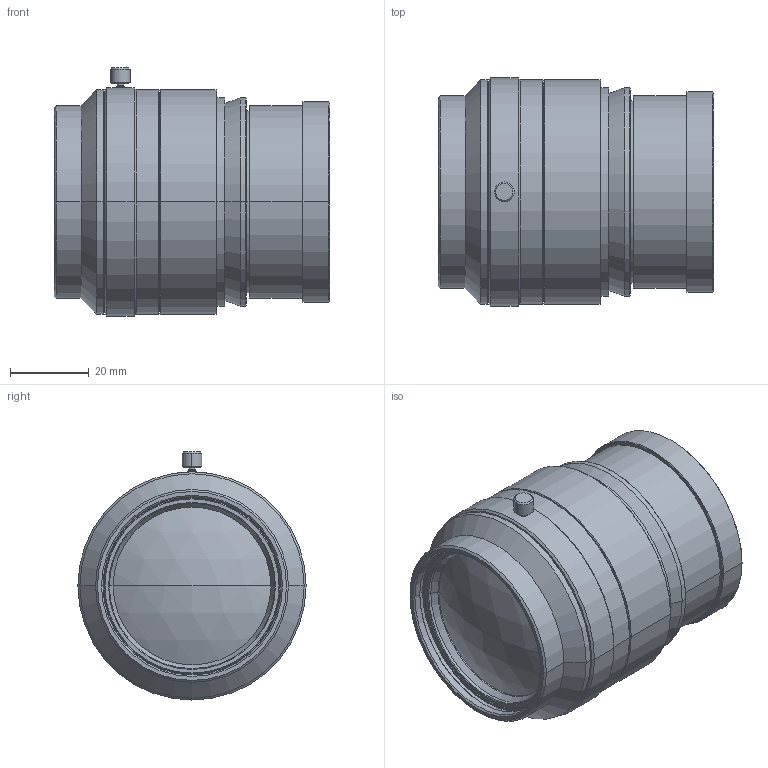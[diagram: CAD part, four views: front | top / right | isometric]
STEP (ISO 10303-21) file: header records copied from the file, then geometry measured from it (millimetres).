
FILE_DESCRIPTION (( 'STEP AP203' ), '1' );
FILE_NAME ('VS-L12035-075_V.STEP', '2015-11-10T00:17:05', ( '' ), ( '' ), 'SwSTEP 2.0', 'SolidWorks 2015', '' );
FILE_SCHEMA (( 'CONFIG_CONTROL_DESIGN' ));
Length unit declared in the file: millimetre
Products named in the file (1): VS-L12035-075_V
Bounding box: 70 x 58 x 63.05 mm (x, y, z)
Volume: 145304.1 mm3; surface area: 19670.9 mm2
Topology: 1 solids, 1 shells, 119 faces, 236 edges, 136 vertices
Faces by surface type: cone 58, cylinder 40, plane 17, sphere 4
Entity records: 3159 total; most frequent: DIRECTION 610, CARTESIAN_POINT 524, ORIENTED_EDGE 472, AXIS2_PLACEMENT_3D 256, EDGE_CURVE 236, CIRCLE 136, EDGE_LOOP 136, VERTEX_POINT 136
